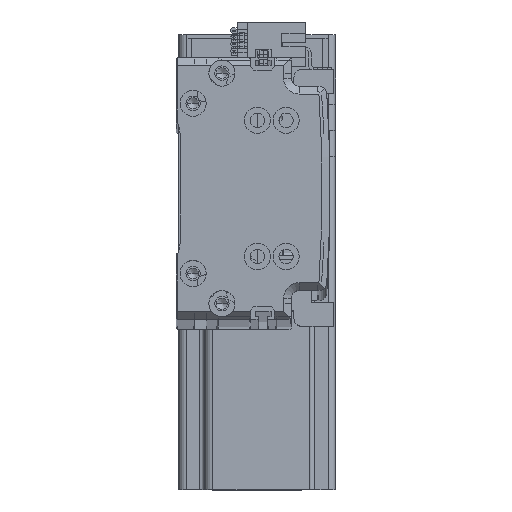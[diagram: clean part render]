
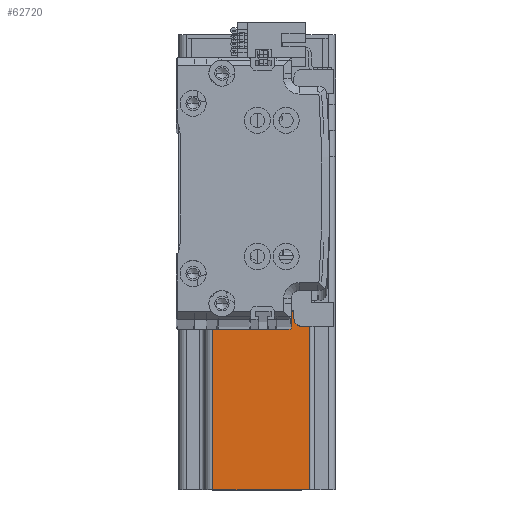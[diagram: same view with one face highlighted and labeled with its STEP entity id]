
A CAD part, top view. The second image highlights one B-rep face of the part: STEP entity #62720.
In plain terms, the highlighted planar face has unit normal (0, 0, 1) as drawn and (-1, 0, 0) by its records, which use the part's own axes.
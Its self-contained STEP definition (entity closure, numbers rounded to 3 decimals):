
#256 = VECTOR ( 'NONE', #28157, 1000. ) ;
#318 = ORIENTED_EDGE ( 'NONE', *, *, #17750, .T. ) ;
#1421 = EDGE_CURVE ( 'NONE', #68326, #52994, #48359, .T. ) ;
#2152 = CARTESIAN_POINT ( 'NONE',  ( -30., -17., 137. ) ) ;
#3392 = EDGE_CURVE ( 'NONE', #11803, #37551, #54617, .T. ) ;
#4873 = DIRECTION ( 'NONE',  ( 0., 0., 1. ) ) ;
#5133 = VECTOR ( 'NONE', #29607, 1000. ) ;
#5424 = EDGE_CURVE ( 'NONE', #37551, #20730, #42417, .T. ) ;
#6651 = EDGE_CURVE ( 'NONE', #58372, #18891, #14483, .T. ) ;
#6815 = LINE ( 'NONE', #13209, #5133 ) ;
#9806 = ORIENTED_EDGE ( 'NONE', *, *, #3392, .F. ) ;
#11047 = CARTESIAN_POINT ( 'NONE',  ( -30., -27., 0. ) ) ;
#11803 = VERTEX_POINT ( 'NONE', #63863 ) ;
#11968 = VECTOR ( 'NONE', #49660, 1000. ) ;
#12246 = VECTOR ( 'NONE', #55270, 1000. ) ;
#13209 = CARTESIAN_POINT ( 'NONE',  ( -30., -30., 0. ) ) ;
#14483 = LINE ( 'NONE', #54731, #256 ) ;
#15451 = DIRECTION ( 'NONE',  ( 1., 0., 0. ) ) ;
#15802 = VECTOR ( 'NONE', #44043, 1000. ) ;
#17356 = CARTESIAN_POINT ( 'NONE',  ( -30., -27., 137. ) ) ;
#17635 = CARTESIAN_POINT ( 'NONE',  ( -30., 30., 10. ) ) ;
#17750 = EDGE_CURVE ( 'NONE', #35663, #18891, #44278, .T. ) ;
#18891 = VERTEX_POINT ( 'NONE', #25800 ) ;
#20730 = VERTEX_POINT ( 'NONE', #2152 ) ;
#25800 = CARTESIAN_POINT ( 'NONE',  ( -30., -27., 10. ) ) ;
#25885 = ORIENTED_EDGE ( 'NONE', *, *, #1421, .T. ) ;
#25953 = PLANE ( 'NONE',  #45014 ) ;
#26172 = LINE ( 'NONE', #17635, #11968 ) ;
#27057 = CARTESIAN_POINT ( 'NONE',  ( -30., -17., 10. ) ) ;
#28157 = DIRECTION ( 'NONE',  ( 0., -1., 0. ) ) ;
#29209 = CARTESIAN_POINT ( 'NONE',  ( -30., 27., 137. ) ) ;
#29607 = DIRECTION ( 'NONE',  ( 0., -1., 0. ) ) ;
#32164 = EDGE_CURVE ( 'NONE', #52994, #35663, #6815, .T. ) ;
#34133 = VECTOR ( 'NONE', #61139, 1000. ) ;
#34278 = CARTESIAN_POINT ( 'NONE',  ( -30., -30., 137. ) ) ;
#35663 = VERTEX_POINT ( 'NONE', #11047 ) ;
#36883 = CARTESIAN_POINT ( 'NONE',  ( -30., 20., 10. ) ) ;
#37551 = VERTEX_POINT ( 'NONE', #46577 ) ;
#38908 = EDGE_CURVE ( 'NONE', #11803, #68326, #26172, .T. ) ;
#41053 = CARTESIAN_POINT ( 'NONE',  ( -30., 27., 10. ) ) ;
#41314 = ORIENTED_EDGE ( 'NONE', *, *, #32164, .T. ) ;
#41814 = CARTESIAN_POINT ( 'NONE',  ( -30., 27., 0. ) ) ;
#42155 = VECTOR ( 'NONE', #4873, 1000. ) ;
#42177 = ORIENTED_EDGE ( 'NONE', *, *, #6651, .F. ) ;
#42417 = LINE ( 'NONE', #34278, #12246 ) ;
#44043 = DIRECTION ( 'NONE',  ( 0., 0., 1. ) ) ;
#44278 = LINE ( 'NONE', #17356, #15802 ) ;
#45014 = AXIS2_PLACEMENT_3D ( 'NONE', #47507, #15451, #52806 ) ;
#46577 = CARTESIAN_POINT ( 'NONE',  ( -30., 20., 137. ) ) ;
#47094 = EDGE_CURVE ( 'NONE', #58372, #20730, #51741, .T. ) ;
#47507 = CARTESIAN_POINT ( 'NONE',  ( -30., -30., 137. ) ) ;
#48359 = LINE ( 'NONE', #29209, #34133 ) ;
#48409 = VECTOR ( 'NONE', #61209, 1000. ) ;
#48848 = ORIENTED_EDGE ( 'NONE', *, *, #47094, .T. ) ;
#49660 = DIRECTION ( 'NONE',  ( 0., 1., 0. ) ) ;
#50517 = CARTESIAN_POINT ( 'NONE',  ( -30., -17., 137. ) ) ;
#51728 = ORIENTED_EDGE ( 'NONE', *, *, #38908, .T. ) ;
#51741 = LINE ( 'NONE', #50517, #48409 ) ;
#52806 = DIRECTION ( 'NONE',  ( 0., 0., -1. ) ) ;
#52994 = VERTEX_POINT ( 'NONE', #41814 ) ;
#53464 = ORIENTED_EDGE ( 'NONE', *, *, #5424, .F. ) ;
#54097 = FACE_OUTER_BOUND ( 'NONE', #67926, .T. ) ;
#54617 = LINE ( 'NONE', #36883, #42155 ) ;
#54731 = CARTESIAN_POINT ( 'NONE',  ( -30., -30., 10. ) ) ;
#55270 = DIRECTION ( 'NONE',  ( 0., -1., 0. ) ) ;
#58372 = VERTEX_POINT ( 'NONE', #27057 ) ;
#61139 = DIRECTION ( 'NONE',  ( 0., 0., -1. ) ) ;
#61209 = DIRECTION ( 'NONE',  ( 0., 0., 1. ) ) ;
#62720 = ADVANCED_FACE ( 'NONE', ( #54097 ), #25953, .F. ) ;
#63863 = CARTESIAN_POINT ( 'NONE',  ( -30., 20., 10. ) ) ;
#67926 = EDGE_LOOP ( 'NONE', ( #42177, #48848, #53464, #9806, #51728, #25885, #41314, #318 ) ) ;
#68326 = VERTEX_POINT ( 'NONE', #41053 ) ;
